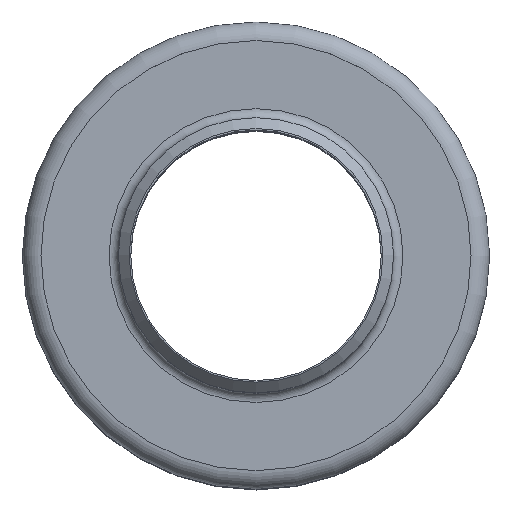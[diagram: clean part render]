
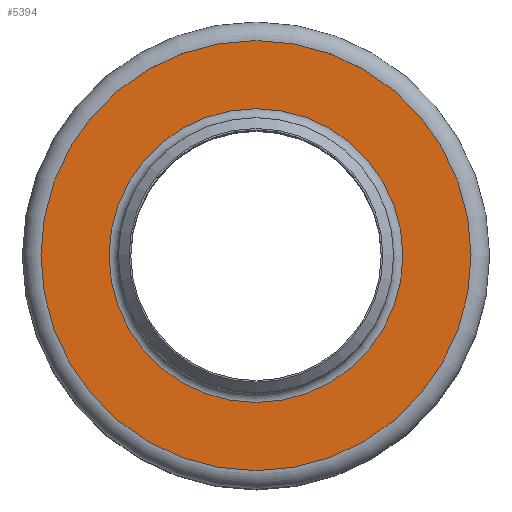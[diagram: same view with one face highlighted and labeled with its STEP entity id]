
A CAD part, top view. The second image highlights one B-rep face of the part: STEP entity #5394.
In plain terms, the highlighted planar face has unit normal (0, 0, 1).
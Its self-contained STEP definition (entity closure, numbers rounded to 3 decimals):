
#260=PLANE('',#5791);
#959=FACE_BOUND('',#1543,.T.);
#1211=FACE_OUTER_BOUND('',#1542,.T.);
#1542=EDGE_LOOP('',(#4493));
#1543=EDGE_LOOP('',(#4494));
#1778=CIRCLE('',#5786,47.45);
#1782=CIRCLE('',#5792,69.45);
#2496=VERTEX_POINT('',#12020);
#2499=VERTEX_POINT('',#12031);
#3178=EDGE_CURVE('',#2496,#2496,#1778,.T.);
#3183=EDGE_CURVE('',#2499,#2499,#1782,.T.);
#4493=ORIENTED_EDGE('',*,*,#3183,.F.);
#4494=ORIENTED_EDGE('',*,*,#3178,.F.);
#5394=ADVANCED_FACE('',(#1211,#959),#260,.F.);
#5786=AXIS2_PLACEMENT_3D('',#12022,#6864,#6865);
#5791=AXIS2_PLACEMENT_3D('',#12030,#6875,#6876);
#5792=AXIS2_PLACEMENT_3D('',#12032,#6877,#6878);
#6864=DIRECTION('center_axis',(0.,0.,1.));
#6865=DIRECTION('ref_axis',(0.,-1.,0.));
#6875=DIRECTION('center_axis',(0.,0.,-1.));
#6876=DIRECTION('ref_axis',(-1.,0.,0.));
#6877=DIRECTION('center_axis',(0.,0.,-1.));
#6878=DIRECTION('ref_axis',(1.,0.,0.));
#12020=CARTESIAN_POINT('',(47.45,0.,76.));
#12022=CARTESIAN_POINT('Origin',(0.,0.,76.));
#12030=CARTESIAN_POINT('Origin',(0.,44.45,76.));
#12031=CARTESIAN_POINT('',(69.45,0.,76.));
#12032=CARTESIAN_POINT('Origin',(0.,0.,76.));
